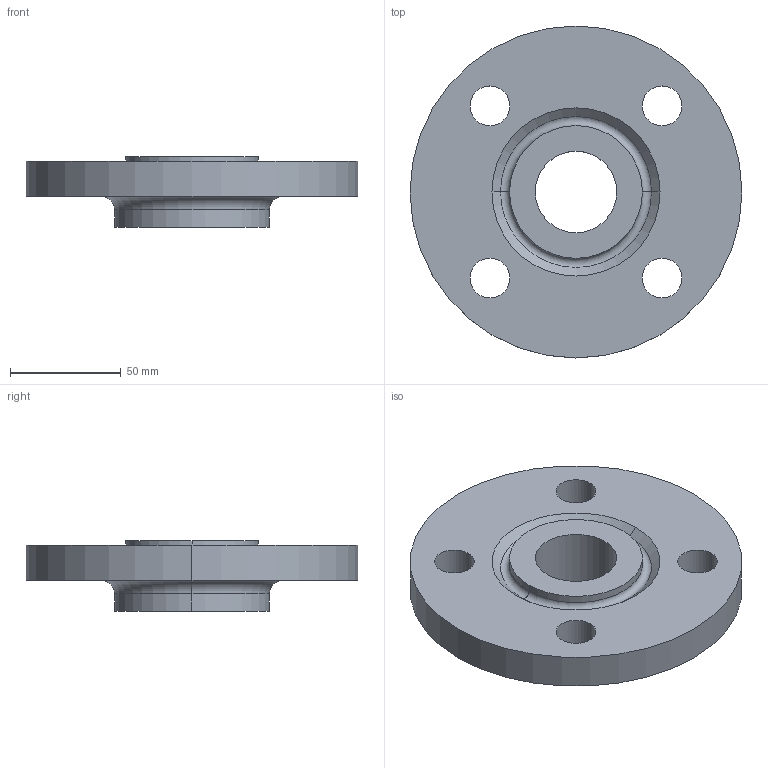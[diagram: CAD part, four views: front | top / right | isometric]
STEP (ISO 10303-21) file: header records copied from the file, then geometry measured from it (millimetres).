
FILE_DESCRIPTION (( 'STEP AP214' ), '1' );
FILE_NAME ('PN40 DN40 Type 13 - Type H Face.STEP', '2018-12-30T04:17:09', ( '' ), ( '' ), 'SwSTEP 2.0', 'SolidWorks 2019', '' );
FILE_SCHEMA (( 'AUTOMOTIVE_DESIGN' ));
Length unit declared in the file: millimetre
Products named in the file (1): PN40 DN40 Type 13 - Type H Face
Bounding box: 150 x 150 x 32 mm (x, y, z)
Volume: 289340.3 mm3; surface area: 49819.7 mm2
Topology: 1 solids, 1 shells, 26 faces, 60 edges, 38 vertices
Faces by surface type: cylinder 16, torus 4, plane 4, cone 2
Entity records: 812 total; most frequent: DIRECTION 156, CARTESIAN_POINT 125, ORIENTED_EDGE 120, AXIS2_PLACEMENT_3D 69, EDGE_CURVE 60, CIRCLE 42, EDGE_LOOP 38, VERTEX_POINT 38
